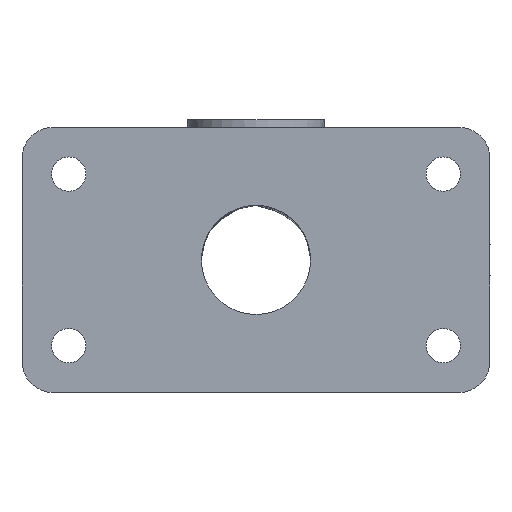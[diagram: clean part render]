
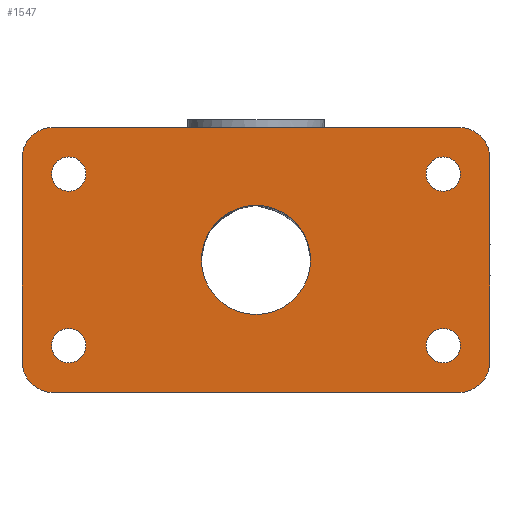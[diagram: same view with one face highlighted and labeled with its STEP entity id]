
A CAD part, front view. The second image highlights one B-rep face of the part: STEP entity #1547.
In plain terms, the highlighted planar face has unit normal (0, -1, 0).
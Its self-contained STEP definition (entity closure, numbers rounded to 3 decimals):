
#254=CARTESIAN_POINT('',(-0.0,-85.0,-17.5));
#255=VERTEX_POINT('',#254);
#256=CARTESIAN_POINT('',(17.5,-85.0,-0.0));
#257=VERTEX_POINT('',#256);
#258=CARTESIAN_POINT('',(-0.0,-85.0,-0.0));
#259=DIRECTION('',(-0.0,-1.0,0.0));
#260=DIRECTION('',(0.0,-0.0,-1.0));
#261=AXIS2_PLACEMENT_3D('',#258,#259,#260);
#262=CIRCLE('',#261,17.5);
#263=EDGE_CURVE('',#255,#257,#262,.T.);
#282=CARTESIAN_POINT('',(-17.5,-85.0,-0.0));
#283=VERTEX_POINT('',#282);
#290=CARTESIAN_POINT('',(-0.0,-85.0,-0.0));
#291=DIRECTION('',(-0.0,-1.0,0.0));
#292=DIRECTION('',(0.0,-0.0,-1.0));
#293=AXIS2_PLACEMENT_3D('',#290,#291,#292);
#294=CIRCLE('',#293,17.5);
#295=EDGE_CURVE('',#283,#255,#294,.T.);
#309=CARTESIAN_POINT('',(65.5,-85.0,-27.5));
#310=VERTEX_POINT('',#309);
#311=CARTESIAN_POINT('',(54.5,-85.0,-27.5));
#312=VERTEX_POINT('',#311);
#313=CARTESIAN_POINT('',(60.,-85.0,-27.5));
#314=DIRECTION('',(0.0,1.0,-0.0));
#315=DIRECTION('',(0.0,-0.0,-1.0));
#316=AXIS2_PLACEMENT_3D('',#313,#314,#315);
#317=CIRCLE('',#316,5.5);
#318=EDGE_CURVE('',#310,#312,#317,.T.);
#355=CARTESIAN_POINT('',(-54.5,-85.0,-27.5));
#356=VERTEX_POINT('',#355);
#357=CARTESIAN_POINT('',(-65.5,-85.0,-27.5));
#358=VERTEX_POINT('',#357);
#359=CARTESIAN_POINT('',(-60.,-85.0,-27.5));
#360=DIRECTION('',(0.0,1.0,-0.0));
#361=DIRECTION('',(0.0,-0.0,-1.0));
#362=AXIS2_PLACEMENT_3D('',#359,#360,#361);
#363=CIRCLE('',#362,5.5);
#364=EDGE_CURVE('',#356,#358,#363,.T.);
#401=CARTESIAN_POINT('',(65.5,-85.0,27.5));
#402=VERTEX_POINT('',#401);
#403=CARTESIAN_POINT('',(54.5,-85.0,27.5));
#404=VERTEX_POINT('',#403);
#405=CARTESIAN_POINT('',(60.,-85.0,27.5));
#406=DIRECTION('',(0.0,1.0,-0.0));
#407=DIRECTION('',(0.0,-0.0,-1.0));
#408=AXIS2_PLACEMENT_3D('',#405,#406,#407);
#409=CIRCLE('',#408,5.5);
#410=EDGE_CURVE('',#402,#404,#409,.T.);
#447=CARTESIAN_POINT('',(-54.5,-85.0,27.5));
#448=VERTEX_POINT('',#447);
#449=CARTESIAN_POINT('',(-65.5,-85.0,27.5));
#450=VERTEX_POINT('',#449);
#451=CARTESIAN_POINT('',(-60.,-85.0,27.5));
#452=DIRECTION('',(0.0,1.0,-0.0));
#453=DIRECTION('',(0.0,-0.0,-1.0));
#454=AXIS2_PLACEMENT_3D('',#451,#452,#453);
#455=CIRCLE('',#454,5.5);
#456=EDGE_CURVE('',#448,#450,#455,.T.);
#563=CARTESIAN_POINT('',(75.0,-85.0,32.5));
#564=VERTEX_POINT('',#563);
#571=CARTESIAN_POINT('',(75.0,-85.0,-32.5));
#572=VERTEX_POINT('',#571);
#573=CARTESIAN_POINT('',(75.0,-85.0,32.5));
#574=DIRECTION('',(0.0,0.0,-1.0));
#575=VECTOR('',#574,1.0);
#576=LINE('',#573,#575);
#577=EDGE_CURVE('',#564,#572,#576,.T.);
#1093=CARTESIAN_POINT('',(65.0,-85.0,-42.5));
#1094=VERTEX_POINT('',#1093);
#1095=CARTESIAN_POINT('',(65.0,-85.0,-32.5));
#1096=DIRECTION('',(0.0,1.0,-0.0));
#1097=DIRECTION('',(0.0,-0.0,-1.0));
#1098=AXIS2_PLACEMENT_3D('',#1095,#1096,#1097);
#1099=CIRCLE('',#1098,10.0);
#1100=EDGE_CURVE('',#572,#1094,#1099,.T.);
#1135=CARTESIAN_POINT('',(-65.0,-85.0,-42.5));
#1136=VERTEX_POINT('',#1135);
#1137=CARTESIAN_POINT('',(65.0,-85.0,-42.5));
#1138=DIRECTION('',(-1.0,0.0,0.0));
#1139=VECTOR('',#1138,1.0);
#1140=LINE('',#1137,#1139);
#1141=EDGE_CURVE('',#1094,#1136,#1140,.T.);
#1184=CARTESIAN_POINT('',(-75.0,-85.0,-32.5));
#1185=VERTEX_POINT('',#1184);
#1186=CARTESIAN_POINT('',(-65.0,-85.0,-32.5));
#1187=DIRECTION('',(0.0,1.0,-0.0));
#1188=DIRECTION('',(0.0,-0.0,-1.0));
#1189=AXIS2_PLACEMENT_3D('',#1186,#1187,#1188);
#1190=CIRCLE('',#1189,10.0);
#1191=EDGE_CURVE('',#1136,#1185,#1190,.T.);
#1226=CARTESIAN_POINT('',(-75.0,-85.0,32.5));
#1227=VERTEX_POINT('',#1226);
#1228=CARTESIAN_POINT('',(-75.0,-85.0,-32.5));
#1229=DIRECTION('',(0.0,0.0,1.0));
#1230=VECTOR('',#1229,1.0);
#1231=LINE('',#1228,#1230);
#1232=EDGE_CURVE('',#1185,#1227,#1231,.T.);
#1275=CARTESIAN_POINT('',(-65.0,-85.0,42.5));
#1276=VERTEX_POINT('',#1275);
#1277=CARTESIAN_POINT('',(-65.0,-85.0,32.5));
#1278=DIRECTION('',(0.0,1.0,-0.0));
#1279=DIRECTION('',(0.0,-0.0,-1.0));
#1280=AXIS2_PLACEMENT_3D('',#1277,#1278,#1279);
#1281=CIRCLE('',#1280,10.0);
#1282=EDGE_CURVE('',#1227,#1276,#1281,.T.);
#1326=CARTESIAN_POINT('',(65.0,-85.0,42.5));
#1327=VERTEX_POINT('',#1326);
#1328=CARTESIAN_POINT('',(-65.0,-85.0,42.5));
#1329=DIRECTION('',(1.0,0.0,0.0));
#1330=VECTOR('',#1329,1.0);
#1331=LINE('',#1328,#1330);
#1332=EDGE_CURVE('',#1276,#1327,#1331,.T.);
#1364=CARTESIAN_POINT('',(65.0,-85.0,32.5));
#1365=DIRECTION('',(0.0,1.0,-0.0));
#1366=DIRECTION('',(0.0,-0.0,-1.0));
#1367=AXIS2_PLACEMENT_3D('',#1364,#1365,#1366);
#1368=CIRCLE('',#1367,10.0);
#1369=EDGE_CURVE('',#1327,#564,#1368,.T.);
#1385=CARTESIAN_POINT('',(-60.,-85.0,27.5));
#1386=DIRECTION('',(0.0,1.0,-0.0));
#1387=DIRECTION('',(0.0,-0.0,-1.0));
#1388=AXIS2_PLACEMENT_3D('',#1385,#1386,#1387);
#1389=CIRCLE('',#1388,5.5);
#1390=EDGE_CURVE('',#450,#448,#1389,.T.);
#1413=CARTESIAN_POINT('',(60.,-85.0,27.5));
#1414=DIRECTION('',(0.0,1.0,-0.0));
#1415=DIRECTION('',(0.0,-0.0,-1.0));
#1416=AXIS2_PLACEMENT_3D('',#1413,#1414,#1415);
#1417=CIRCLE('',#1416,5.5);
#1418=EDGE_CURVE('',#404,#402,#1417,.T.);
#1441=CARTESIAN_POINT('',(-60.,-85.0,-27.5));
#1442=DIRECTION('',(0.0,1.0,-0.0));
#1443=DIRECTION('',(0.0,-0.0,-1.0));
#1444=AXIS2_PLACEMENT_3D('',#1441,#1442,#1443);
#1445=CIRCLE('',#1444,5.5);
#1446=EDGE_CURVE('',#358,#356,#1445,.T.);
#1469=CARTESIAN_POINT('',(60.,-85.0,-27.5));
#1470=DIRECTION('',(0.0,1.0,-0.0));
#1471=DIRECTION('',(0.0,-0.0,-1.0));
#1472=AXIS2_PLACEMENT_3D('',#1469,#1470,#1471);
#1473=CIRCLE('',#1472,5.5);
#1474=EDGE_CURVE('',#312,#310,#1473,.T.);
#1496=ORIENTED_EDGE('',*,*,#1191,.F.);
#1497=ORIENTED_EDGE('',*,*,#1141,.F.);
#1498=ORIENTED_EDGE('',*,*,#1100,.F.);
#1499=ORIENTED_EDGE('',*,*,#577,.F.);
#1500=ORIENTED_EDGE('',*,*,#1369,.F.);
#1501=ORIENTED_EDGE('',*,*,#1332,.F.);
#1502=ORIENTED_EDGE('',*,*,#1282,.F.);
#1503=ORIENTED_EDGE('',*,*,#1232,.F.);
#1504=EDGE_LOOP('',(#1496,#1497,#1498,#1499,#1500,#1501,#1502,#1503));
#1505=FACE_OUTER_BOUND('',#1504,.T.);
#1506=ORIENTED_EDGE('',*,*,#1390,.T.);
#1507=ORIENTED_EDGE('',*,*,#456,.T.);
#1508=EDGE_LOOP('',(#1506,#1507));
#1509=FACE_BOUND('',#1508,.T.);
#1510=ORIENTED_EDGE('',*,*,#1446,.T.);
#1511=ORIENTED_EDGE('',*,*,#364,.T.);
#1512=EDGE_LOOP('',(#1510,#1511));
#1513=FACE_BOUND('',#1512,.T.);
#1514=ORIENTED_EDGE('',*,*,#263,.F.);
#1515=ORIENTED_EDGE('',*,*,#295,.F.);
#1516=CARTESIAN_POINT('',(-0.0,-85.0,17.5));
#1517=VERTEX_POINT('',#1516);
#1518=CARTESIAN_POINT('',(-0.0,-85.0,-0.0));
#1519=DIRECTION('',(-0.0,-1.0,0.0));
#1520=DIRECTION('',(0.0,-0.0,-1.0));
#1521=AXIS2_PLACEMENT_3D('',#1518,#1519,#1520);
#1522=CIRCLE('',#1521,17.5);
#1523=EDGE_CURVE('',#1517,#283,#1522,.T.);
#1524=ORIENTED_EDGE('',*,*,#1523,.F.);
#1525=CARTESIAN_POINT('',(-0.0,-85.0,-0.0));
#1526=DIRECTION('',(-0.0,-1.0,0.0));
#1527=DIRECTION('',(0.0,-0.0,-1.0));
#1528=AXIS2_PLACEMENT_3D('',#1525,#1526,#1527);
#1529=CIRCLE('',#1528,17.5);
#1530=EDGE_CURVE('',#257,#1517,#1529,.T.);
#1531=ORIENTED_EDGE('',*,*,#1530,.F.);
#1532=EDGE_LOOP('',(#1514,#1515,#1524,#1531));
#1533=FACE_BOUND('',#1532,.T.);
#1534=ORIENTED_EDGE('',*,*,#1418,.T.);
#1535=ORIENTED_EDGE('',*,*,#410,.T.);
#1536=EDGE_LOOP('',(#1534,#1535));
#1537=FACE_BOUND('',#1536,.T.);
#1538=ORIENTED_EDGE('',*,*,#1474,.T.);
#1539=ORIENTED_EDGE('',*,*,#318,.T.);
#1540=EDGE_LOOP('',(#1538,#1539));
#1541=FACE_BOUND('',#1540,.T.);
#1542=CARTESIAN_POINT('',(72.071,-85.0,-39.571));
#1543=DIRECTION('',(-0.0,-1.0,0.0));
#1544=DIRECTION('',(1.0,-0.0,-0.0));
#1545=AXIS2_PLACEMENT_3D('',#1542,#1543,#1544);
#1546=PLANE('',#1545);
#1547=ADVANCED_FACE('',(#1505,#1509,#1513,#1533,#1537,#1541),#1546,.T.);
